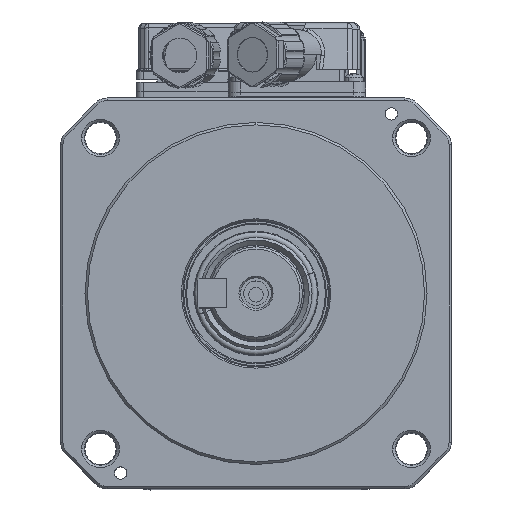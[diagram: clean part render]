
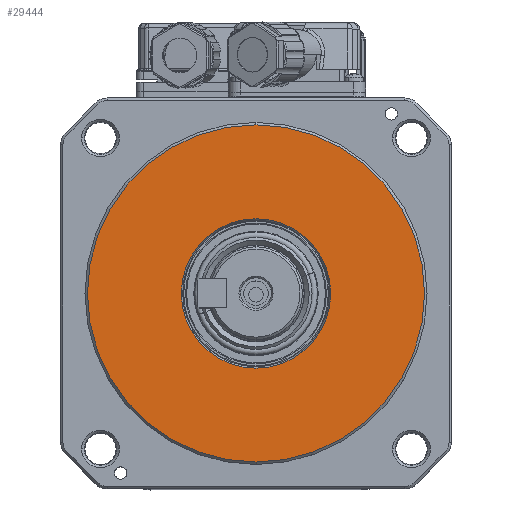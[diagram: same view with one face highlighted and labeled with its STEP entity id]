
A CAD part, top view. The second image highlights one B-rep face of the part: STEP entity #29444.
In plain terms, the highlighted planar face has unit normal (0, 0, 1).
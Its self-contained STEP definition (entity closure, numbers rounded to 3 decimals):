
#294 = CARTESIAN_POINT ( 'NONE',  ( 0., 0., 0. ) ) ;
#1281 = DIRECTION ( 'NONE',  ( 0., 0., -1. ) ) ;
#2680 = CARTESIAN_POINT ( 'NONE',  ( 0., 15.289, 0. ) ) ;
#3260 = AXIS2_PLACEMENT_3D ( 'NONE', #294, #42295, #53496 ) ;
#3743 = AXIS2_PLACEMENT_3D ( 'NONE', #28835, #6240, #18268 ) ;
#4374 = VERTEX_POINT ( 'NONE', #2680 ) ;
#5313 = AXIS2_PLACEMENT_3D ( 'NONE', #21203, #15694, #63157 ) ;
#5710 = VERTEX_POINT ( 'NONE', #39551 ) ;
#6240 = DIRECTION ( 'NONE',  ( 0., 0., 1. ) ) ;
#8365 = EDGE_LOOP ( 'NONE', ( #16566, #27588 ) ) ;
#8729 = CIRCLE ( 'NONE', #3743, 15.289 ) ;
#9039 = DIRECTION ( 'NONE',  ( 0., 0., 1. ) ) ;
#15694 = DIRECTION ( 'NONE',  ( 0., 0., 1. ) ) ;
#16471 = CARTESIAN_POINT ( 'NONE',  ( 0., -15.289, 0. ) ) ;
#16566 = ORIENTED_EDGE ( 'NONE', *, *, #68968, .T. ) ;
#18268 = DIRECTION ( 'NONE',  ( 0., -1., 0. ) ) ;
#21203 = CARTESIAN_POINT ( 'NONE',  ( 0., 0., 0. ) ) ;
#24973 = DIRECTION ( 'NONE',  ( 0., 1., 0. ) ) ;
#27588 = ORIENTED_EDGE ( 'NONE', *, *, #61094, .T. ) ;
#28835 = CARTESIAN_POINT ( 'NONE',  ( 0., 0., 0. ) ) ;
#29444 = ADVANCED_FACE ( 'NONE', ( #42123, #71955 ), #54515, .F. ) ;
#31802 = CIRCLE ( 'NONE', #3260, 15.289 ) ;
#31830 = AXIS2_PLACEMENT_3D ( 'NONE', #62263, #9039, #32751 ) ;
#32636 = CIRCLE ( 'NONE', #5313, 34.5 ) ;
#32751 = DIRECTION ( 'NONE',  ( 0., -1., 0. ) ) ;
#36562 = VERTEX_POINT ( 'NONE', #64563 ) ;
#39551 = CARTESIAN_POINT ( 'NONE',  ( 0., 34.5, 0. ) ) ;
#41563 = EDGE_CURVE ( 'NONE', #47953, #4374, #31802, .T. ) ;
#42123 = FACE_BOUND ( 'NONE', #56325, .T. ) ;
#42295 = DIRECTION ( 'NONE',  ( 0., 0., 1. ) ) ;
#43586 = AXIS2_PLACEMENT_3D ( 'NONE', #49038, #1281, #24973 ) ;
#45225 = EDGE_CURVE ( 'NONE', #4374, #47953, #8729, .T. ) ;
#47953 = VERTEX_POINT ( 'NONE', #16471 ) ;
#49038 = CARTESIAN_POINT ( 'NONE',  ( 0., 14.7, 0. ) ) ;
#50872 = ORIENTED_EDGE ( 'NONE', *, *, #45225, .F. ) ;
#52859 = CIRCLE ( 'NONE', #31830, 34.5 ) ;
#53496 = DIRECTION ( 'NONE',  ( 0., -1., 0. ) ) ;
#54515 = PLANE ( 'NONE',  #43586 ) ;
#56325 = EDGE_LOOP ( 'NONE', ( #57717, #50872 ) ) ;
#57717 = ORIENTED_EDGE ( 'NONE', *, *, #41563, .F. ) ;
#61094 = EDGE_CURVE ( 'NONE', #36562, #5710, #52859, .T. ) ;
#62263 = CARTESIAN_POINT ( 'NONE',  ( 0., 0., 0. ) ) ;
#63157 = DIRECTION ( 'NONE',  ( 0., -1., 0. ) ) ;
#64563 = CARTESIAN_POINT ( 'NONE',  ( 0., -34.5, 0. ) ) ;
#68968 = EDGE_CURVE ( 'NONE', #5710, #36562, #32636, .T. ) ;
#71955 = FACE_OUTER_BOUND ( 'NONE', #8365, .T. ) ;
